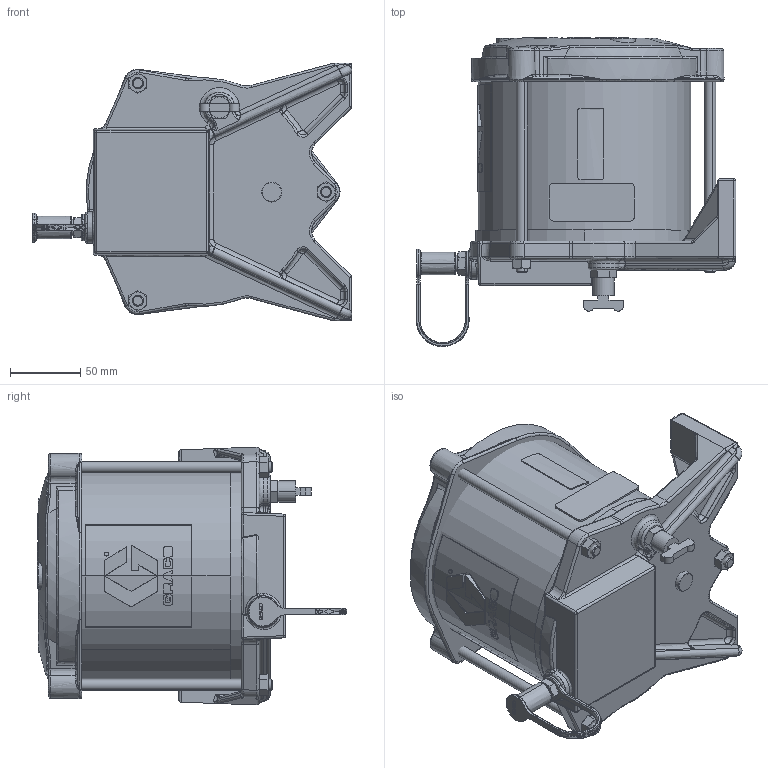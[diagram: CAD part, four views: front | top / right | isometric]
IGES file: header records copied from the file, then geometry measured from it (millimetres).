
Start section:  PTC IGES file: 562910-en-n.igs
Global section: file name: 562910-en-n.igs; native system: Creo Parametric by PTC Inc.; preprocessor: 2019030; author: qusrh3; organization: Unknown; date: 20191231.212405; units: inch
Bounding box: 228.18 x 220.64 x 184.04 mm (x, y, z)
Surface area: 290527.7 mm2 (no closed solid volume)
Topology: 0 solids, 0 shells, 1511 faces, 7299 edges, 7299 vertices
Faces by surface type: bspline 1110, revolution 349, extrusion 52
